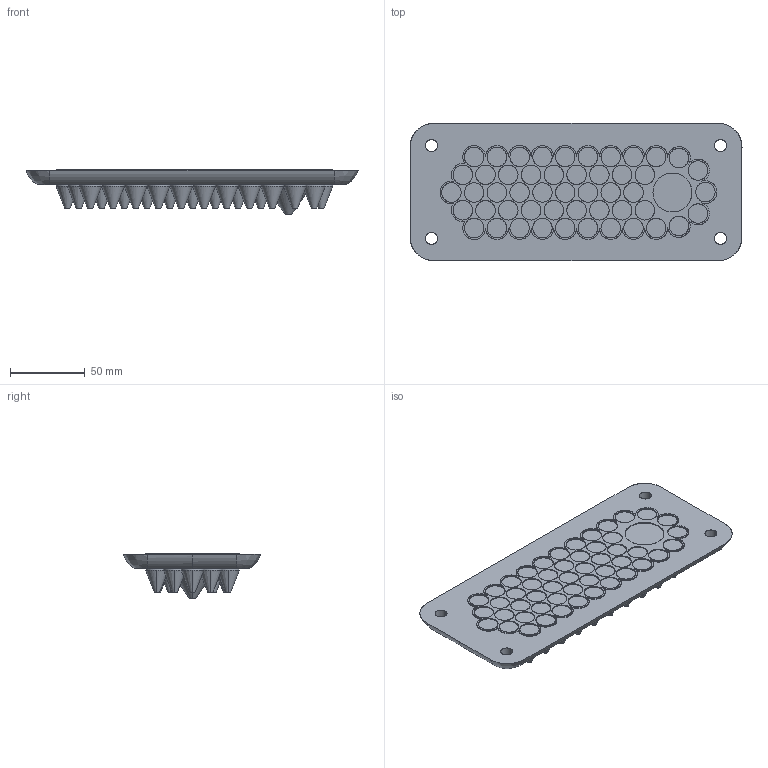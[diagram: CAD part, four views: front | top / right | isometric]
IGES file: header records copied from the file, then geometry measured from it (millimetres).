
Start section: SolidWorks IGES file using analytic representation for surfaces
Global section: file name: C:\Solidworks\omat tuotteet\Space charge models\Multigate\ip54 LMC\IGES\104344.IGS; native system: SolidWorks 2012; preprocessor: SolidWorks 2012; author: joni.lehtonen; date: 121212.104133; units: millimetre
Bounding box: 221.74 x 91.75 x 30 mm (x, y, z)
Surface area: 61752.7 mm2 (no closed solid volume)
Topology: 0 solids, 0 shells, 594 faces, 10328 edges, 10328 vertices
Faces by surface type: revolution 458, bspline 136
